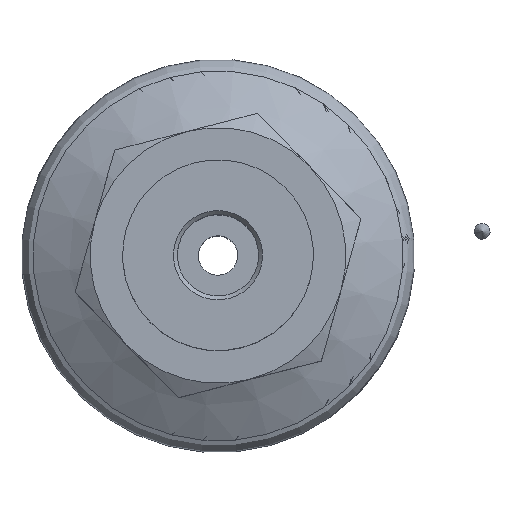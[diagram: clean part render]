
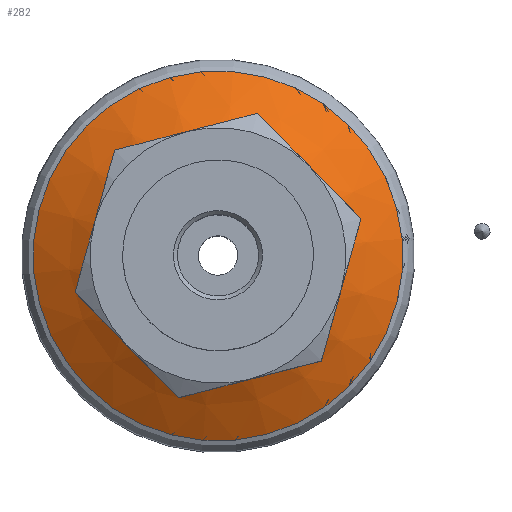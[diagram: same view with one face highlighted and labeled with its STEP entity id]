
A CAD part, top view. The second image highlights one B-rep face of the part: STEP entity #282.
In plain terms, the highlighted conical face has half-angle 60.04 degrees and reference radius 9.399 mm.
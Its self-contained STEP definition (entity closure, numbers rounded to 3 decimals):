
#282=ADVANCED_FACE('',(#543,#544),#545,.T.);
#543=FACE_OUTER_BOUND('',#784,.T.);
#544=FACE_BOUND('',#785,.T.);
#545=CONICAL_SURFACE('',#786,9.399,1.048);
#784=EDGE_LOOP('',(#1231));
#785=EDGE_LOOP('',(#1232));
#786=AXIS2_PLACEMENT_3D('',#1233,#1234,#1235);
#1231=ORIENTED_EDGE('',*,*,#1358,.T.);
#1232=ORIENTED_EDGE('',*,*,#1361,.T.);
#1233=CARTESIAN_POINT('',(0.0,0.,7.04));
#1234=DIRECTION('',(0.0,0.,-1.0));
#1235=DIRECTION('',(0.0,1.0,0.));
#1358=EDGE_CURVE('',#1537,#1537,#1538,.F.);
#1361=EDGE_CURVE('',#1542,#1542,#1543,.T.);
#1537=VERTEX_POINT('',#1836);
#1538=CIRCLE('',#1837,9.399);
#1542=VERTEX_POINT('',#1841);
#1543=CIRCLE('',#1842,5.801);
#1836=CARTESIAN_POINT('',(9.399,0.,7.04));
#1837=AXIS2_PLACEMENT_3D('',#1988,#1989,#1990);
#1841=CARTESIAN_POINT('',(5.801,0.,9.114));
#1842=AXIS2_PLACEMENT_3D('',#1994,#1995,#1996);
#1988=CARTESIAN_POINT('',(0.0,0.,7.04));
#1989=DIRECTION('',(0.0,0.,-1.0));
#1990=DIRECTION('',(1.0,0.,0.));
#1994=CARTESIAN_POINT('',(0.0,0.,9.114));
#1995=DIRECTION('',(0.0,0.,-1.0));
#1996=DIRECTION('',(1.0,0.0,0.0));
